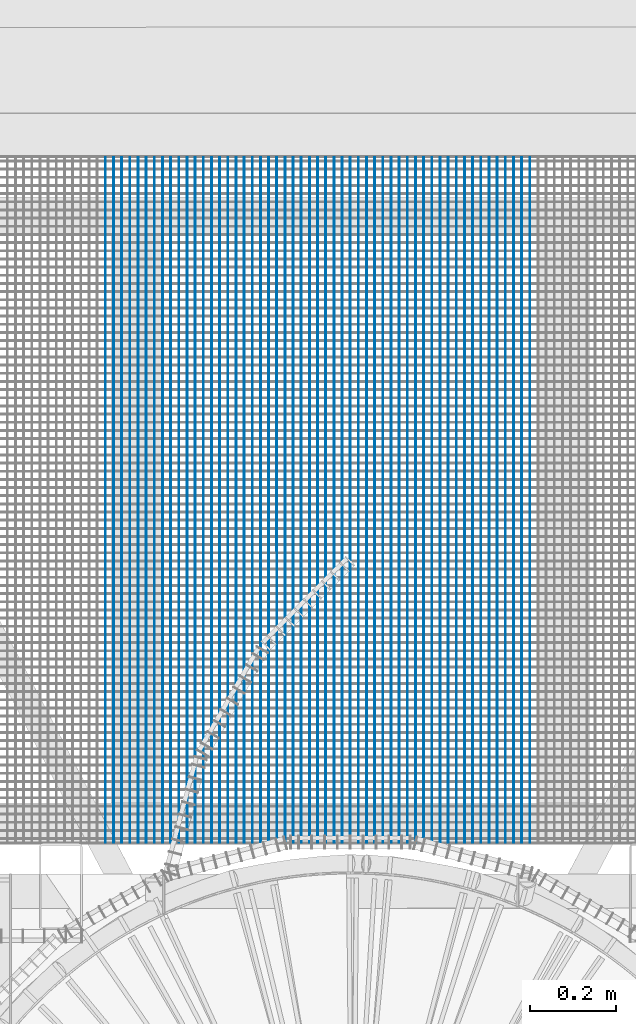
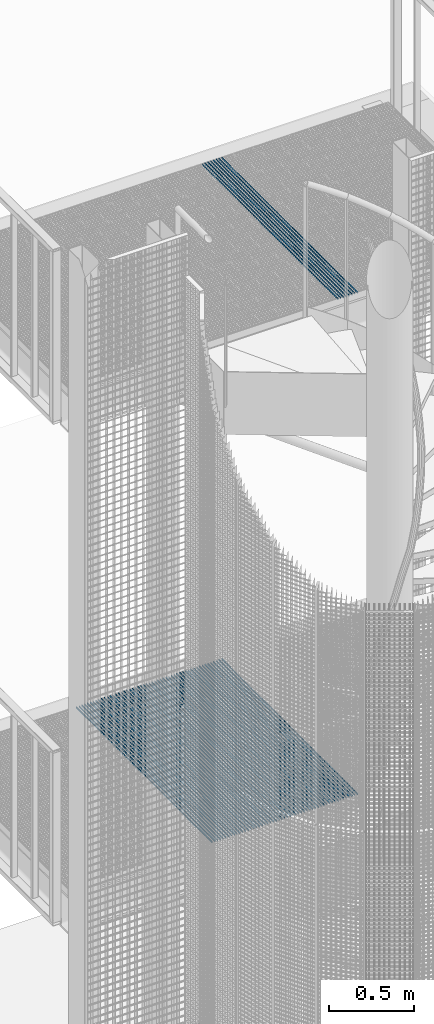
# One storey, part 82 of 1183: 61 beams, 2 elements without a shape of their own.
"""IFC2X3 building model written with IfcOpenShell, lengths in millimetres."""

from ifc_helpers import new_model, si_unit, frame, origin_with_axes, origin_2d_with_axis, place, context, subcontext, project, spatial, rectangle, extrude, material, type_object, element, aggregate, save


model = new_model("IFC2X3")

# Units and contexts
model_context = context("Model", 3, precision=1e-05, world=origin_with_axes())
body_context = subcontext(model_context, "Body", "Model", "MODEL_VIEW")
ifc_project = project(units=[si_unit("LENGTHUNIT", "METRE", prefix="MILLI"), si_unit("AREAUNIT", "SQUARE_METRE"), si_unit("VOLUMEUNIT", "CUBIC_METRE"), si_unit("MASSUNIT", "GRAM", prefix="KILO"), si_unit("TIMEUNIT", "SECOND"), si_unit("PLANEANGLEUNIT", "RADIAN"), si_unit("SOLIDANGLEUNIT", "STERADIAN"), si_unit("THERMODYNAMICTEMPERATUREUNIT", "DEGREE_CELSIUS"), si_unit("LUMINOUSINTENSITYUNIT", "LUMEN")], contexts=[model_context])

# Site, building, storey
site_placement = place(None, origin_with_axes())
site = spatial("IfcSite", under=ifc_project, at=site_placement, Name="Undefined", CompositionType="ELEMENT")
building_placement = place(site_placement, origin_with_axes())
building = spatial("IfcBuilding", under=site, at=building_placement, Name="Undefined", CompositionType="ELEMENT")
storey_placement = place(building_placement, origin_with_axes())
storey = spatial("IfcBuildingStorey", under=building, at=storey_placement, Name="Undefined", CompositionType="ELEMENT", Elevation=0.0)

# Assembly, beams
assembly_1_placement = place(storey_placement, origin_with_axes())
assembly_1 = element("IfcElementAssembly", 1, at=assembly_1_placement, inside=storey, Name="BORDURE", AssemblyPlace="NOTDEFINED", PredefinedType="NOTDEFINED")
ifc_material = material(Name="STEEL/S235JR")
beam_type = type_object("IfcBeamType", Name="PL2*10", PredefinedType="NOTDEFINED")
beam_1_placement = place(assembly_1_placement, frame((285.075424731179, 1102.00372179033, 17285.0), z_axis=(0.0, 0.0, 1.0), x_axis=(-4.50599999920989e-06, 0.999999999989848, 0.0)))
beam_1 = element("IfcBeam", 2, at=beam_1_placement, type_object=beam_type, material=ifc_material, Name="ENTRETOISE", context=body_context, shape_type="SweptSolid", body=[
    extrude(rectangle(XDim=2.0, YDim=10.0, at=origin_2d_with_axis()), frame((1596.0000000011, -1.35186458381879e-18, -7.27595761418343e-12), z_axis=(-1.0, 0.0, 0.0), x_axis=(0.0, -1.0, 0.0)), (0.0, 0.0, 1.0), 1596.0),
])
beam_2_placement = place(assembly_1_placement, frame((304.075424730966, 1102.00381530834, 17285.0), z_axis=(0.0, 0.0, 1.0), x_axis=(-4.50599999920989e-06, 0.999999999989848, 0.0)))
beam_2 = element("IfcBeam", 3, at=beam_2_placement, type_object=beam_type, material=ifc_material, Name="ENTRETOISE", context=body_context, shape_type="SweptSolid", body=[
    extrude(rectangle(XDim=2.0, YDim=10.0, at=origin_2d_with_axis()), frame((1596.0000000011, -1.35186458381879e-18, -7.27595761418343e-12), z_axis=(-1.0, 0.0, 0.0), x_axis=(0.0, -1.0, 0.0)), (0.0, 0.0, 1.0), 1596.0),
])
beam_3_placement = place(assembly_1_placement, frame((323.075424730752, 1102.00390882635, 17285.0), z_axis=(0.0, 0.0, 1.0), x_axis=(-4.50599999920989e-06, 0.999999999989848, 0.0)))
beam_3 = element("IfcBeam", 4, at=beam_3_placement, type_object=beam_type, material=ifc_material, Name="ENTRETOISE", context=body_context, shape_type="SweptSolid", body=[
    extrude(rectangle(XDim=2.0, YDim=10.0, at=origin_2d_with_axis()), frame((1596.0000000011, -1.35186458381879e-18, -7.27595761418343e-12), z_axis=(-1.0, 0.0, 0.0), x_axis=(0.0, -1.0, 0.0)), (0.0, 0.0, 1.0), 1596.0),
])
beam_4_placement = place(assembly_1_placement, frame((342.075424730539, 1102.00400234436, 17285.0), z_axis=(0.0, 0.0, 1.0), x_axis=(-4.50599999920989e-06, 0.999999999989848, 0.0)))
beam_4 = element("IfcBeam", 5, at=beam_4_placement, type_object=beam_type, material=ifc_material, Name="ENTRETOISE", context=body_context, shape_type="SweptSolid", body=[
    extrude(rectangle(XDim=2.0, YDim=10.0, at=origin_2d_with_axis()), frame((1596.0000000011, -1.35186458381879e-18, -7.27595761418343e-12), z_axis=(-1.0, 0.0, 0.0), x_axis=(0.0, -1.0, 0.0)), (0.0, 0.0, 1.0), 1596.0),
])
beam_5_placement = place(assembly_1_placement, frame((361.075424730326, 1102.00409586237, 17285.0), z_axis=(0.0, 0.0, 1.0), x_axis=(-4.50599999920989e-06, 0.999999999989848, 0.0)))
beam_5 = element("IfcBeam", 6, at=beam_5_placement, type_object=beam_type, material=ifc_material, Name="ENTRETOISE", context=body_context, shape_type="SweptSolid", body=[
    extrude(rectangle(XDim=2.0, YDim=10.0, at=origin_2d_with_axis()), frame((1596.0000000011, -1.35186458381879e-18, -7.27595761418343e-12), z_axis=(-1.0, 0.0, 0.0), x_axis=(0.0, -1.0, 0.0)), (0.0, 0.0, 1.0), 1596.0),
])
beam_6_placement = place(assembly_1_placement, frame((380.075424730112, 1102.00418938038, 17285.0), z_axis=(0.0, 0.0, 1.0), x_axis=(-4.50599999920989e-06, 0.999999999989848, 0.0)))
beam_6 = element("IfcBeam", 7, at=beam_6_placement, type_object=beam_type, material=ifc_material, Name="ENTRETOISE", context=body_context, shape_type="SweptSolid", body=[
    extrude(rectangle(XDim=2.0, YDim=10.0, at=origin_2d_with_axis()), frame((1596.0000000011, -1.35186458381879e-18, -7.27595761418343e-12), z_axis=(-1.0, 0.0, 0.0), x_axis=(0.0, -1.0, 0.0)), (0.0, 0.0, 1.0), 1596.0),
])
beam_7_placement = place(assembly_1_placement, frame((399.075424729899, 1102.00428289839, 17285.0), z_axis=(0.0, 0.0, 1.0), x_axis=(-4.50599999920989e-06, 0.999999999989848, 0.0)))
beam_7 = element("IfcBeam", 8, at=beam_7_placement, type_object=beam_type, material=ifc_material, Name="ENTRETOISE", context=body_context, shape_type="SweptSolid", body=[
    extrude(rectangle(XDim=2.0, YDim=10.0, at=origin_2d_with_axis()), frame((1596.0000000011, -1.35186458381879e-18, -7.27595761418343e-12), z_axis=(-1.0, 0.0, 0.0), x_axis=(0.0, -1.0, 0.0)), (0.0, 0.0, 1.0), 1596.0),
])
beam_8_placement = place(assembly_1_placement, frame((418.075424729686, 1102.0043764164, 17285.0), z_axis=(0.0, 0.0, 1.0), x_axis=(-4.50599999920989e-06, 0.999999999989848, 0.0)))
beam_8 = element("IfcBeam", 9, at=beam_8_placement, type_object=beam_type, material=ifc_material, Name="ENTRETOISE", context=body_context, shape_type="SweptSolid", body=[
    extrude(rectangle(XDim=2.0, YDim=10.0, at=origin_2d_with_axis()), frame((1596.0000000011, -1.35186458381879e-18, -7.27595761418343e-12), z_axis=(-1.0, 0.0, 0.0), x_axis=(0.0, -1.0, 0.0)), (0.0, 0.0, 1.0), 1596.0),
])
aggregate(assembly_1, [beam_1, beam_2, beam_3, beam_4, beam_5, beam_6, beam_7, beam_8])

assembly_2_placement = place(storey_placement, origin_with_axes())
assembly_2 = element("IfcElementAssembly", 10, at=assembly_2_placement, inside=storey, Name="BORDURE", AssemblyPlace="NOTDEFINED", PredefinedType="NOTDEFINED")
beam_9_placement = place(assembly_2_placement, frame((-569.924575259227, 1101.99951347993, 13685.0), z_axis=(0.0, 0.0, 1.0), x_axis=(-4.50599999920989e-06, 0.999999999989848, 0.0)))
beam_9 = element("IfcBeam", 11, at=beam_9_placement, type_object=beam_type, material=ifc_material, Name="ENTRETOISE", context=body_context, shape_type="SweptSolid", body=[
    extrude(rectangle(XDim=2.0, YDim=10.0, at=origin_2d_with_axis()), frame((1596.0000000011, -1.35186458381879e-18, -7.27595761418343e-12), z_axis=(-1.0, 0.0, 0.0), x_axis=(0.0, -1.0, 0.0)), (0.0, 0.0, 1.0), 1596.0),
])
beam_10_placement = place(assembly_2_placement, frame((-550.92457525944, 1101.99960699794, 13685.0), z_axis=(0.0, 0.0, 1.0), x_axis=(-4.50599999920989e-06, 0.999999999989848, 0.0)))
beam_10 = element("IfcBeam", 12, at=beam_10_placement, type_object=beam_type, material=ifc_material, Name="ENTRETOISE", context=body_context, shape_type="SweptSolid", body=[
    extrude(rectangle(XDim=2.0, YDim=10.0, at=origin_2d_with_axis()), frame((1596.0000000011, -1.35186458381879e-18, -7.27595761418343e-12), z_axis=(-1.0, 0.0, 0.0), x_axis=(0.0, -1.0, 0.0)), (0.0, 0.0, 1.0), 1596.0),
])
beam_11_placement = place(assembly_2_placement, frame((-531.924575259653, 1101.99970051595, 13685.0), z_axis=(0.0, 0.0, 1.0), x_axis=(-4.50599999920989e-06, 0.999999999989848, 0.0)))
beam_11 = element("IfcBeam", 13, at=beam_11_placement, type_object=beam_type, material=ifc_material, Name="ENTRETOISE", context=body_context, shape_type="SweptSolid", body=[
    extrude(rectangle(XDim=2.0, YDim=10.0, at=origin_2d_with_axis()), frame((1596.0000000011, -1.35186458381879e-18, -7.27595761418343e-12), z_axis=(-1.0, 0.0, 0.0), x_axis=(0.0, -1.0, 0.0)), (0.0, 0.0, 1.0), 1596.0),
])
beam_12_placement = place(assembly_2_placement, frame((-512.924575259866, 1101.99979403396, 13685.0), z_axis=(0.0, 0.0, 1.0), x_axis=(-4.50599999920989e-06, 0.999999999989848, 0.0)))
beam_12 = element("IfcBeam", 14, at=beam_12_placement, type_object=beam_type, material=ifc_material, Name="ENTRETOISE", context=body_context, shape_type="SweptSolid", body=[
    extrude(rectangle(XDim=2.0, YDim=10.0, at=origin_2d_with_axis()), frame((1596.0000000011, -1.35186458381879e-18, -7.27595761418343e-12), z_axis=(-1.0, 0.0, 0.0), x_axis=(0.0, -1.0, 0.0)), (0.0, 0.0, 1.0), 1596.0),
])
beam_13_placement = place(assembly_2_placement, frame((-493.924575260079, 1101.99988755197, 13685.0), z_axis=(0.0, 0.0, 1.0), x_axis=(-4.50599999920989e-06, 0.999999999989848, 0.0)))
beam_13 = element("IfcBeam", 15, at=beam_13_placement, type_object=beam_type, material=ifc_material, Name="ENTRETOISE", context=body_context, shape_type="SweptSolid", body=[
    extrude(rectangle(XDim=2.0, YDim=10.0, at=origin_2d_with_axis()), frame((1596.0000000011, -1.35186458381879e-18, -7.27595761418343e-12), z_axis=(-1.0, 0.0, 0.0), x_axis=(0.0, -1.0, 0.0)), (0.0, 0.0, 1.0), 1596.0),
])
beam_14_placement = place(assembly_2_placement, frame((-474.924575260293, 1101.99998106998, 13685.0), z_axis=(0.0, 0.0, 1.0), x_axis=(-4.50599999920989e-06, 0.999999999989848, 0.0)))
beam_14 = element("IfcBeam", 16, at=beam_14_placement, type_object=beam_type, material=ifc_material, Name="ENTRETOISE", context=body_context, shape_type="SweptSolid", body=[
    extrude(rectangle(XDim=2.0, YDim=10.0, at=origin_2d_with_axis()), frame((1596.0000000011, -1.35186458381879e-18, -7.27595761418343e-12), z_axis=(-1.0, 0.0, 0.0), x_axis=(0.0, -1.0, 0.0)), (0.0, 0.0, 1.0), 1596.0),
])
beam_15_placement = place(assembly_2_placement, frame((-455.924575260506, 1102.00007458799, 13685.0), z_axis=(0.0, 0.0, 1.0), x_axis=(-4.50599999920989e-06, 0.999999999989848, 0.0)))
beam_15 = element("IfcBeam", 17, at=beam_15_placement, type_object=beam_type, material=ifc_material, Name="ENTRETOISE", context=body_context, shape_type="SweptSolid", body=[
    extrude(rectangle(XDim=2.0, YDim=10.0, at=origin_2d_with_axis()), frame((1596.0000000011, -1.35186458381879e-18, -7.27595761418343e-12), z_axis=(-1.0, 0.0, 0.0), x_axis=(0.0, -1.0, 0.0)), (0.0, 0.0, 1.0), 1596.0),
])
beam_16_placement = place(assembly_2_placement, frame((-436.924575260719, 1102.00016810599, 13685.0), z_axis=(0.0, 0.0, 1.0), x_axis=(-4.50599999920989e-06, 0.999999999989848, 0.0)))
beam_16 = element("IfcBeam", 18, at=beam_16_placement, type_object=beam_type, material=ifc_material, Name="ENTRETOISE", context=body_context, shape_type="SweptSolid", body=[
    extrude(rectangle(XDim=2.0, YDim=10.0, at=origin_2d_with_axis()), frame((1596.0000000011, -1.35186458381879e-18, -7.27595761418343e-12), z_axis=(-1.0, 0.0, 0.0), x_axis=(0.0, -1.0, 0.0)), (0.0, 0.0, 1.0), 1596.0),
])
beam_17_placement = place(assembly_2_placement, frame((-417.924575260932, 1102.000261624, 13685.0), z_axis=(0.0, 0.0, 1.0), x_axis=(-4.50599999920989e-06, 0.999999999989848, 0.0)))
beam_17 = element("IfcBeam", 19, at=beam_17_placement, type_object=beam_type, material=ifc_material, Name="ENTRETOISE", context=body_context, shape_type="SweptSolid", body=[
    extrude(rectangle(XDim=2.0, YDim=10.0, at=origin_2d_with_axis()), frame((1596.0000000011, -1.35186458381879e-18, -7.27595761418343e-12), z_axis=(-1.0, 0.0, 0.0), x_axis=(0.0, -1.0, 0.0)), (0.0, 0.0, 1.0), 1596.0),
])
beam_18_placement = place(assembly_2_placement, frame((-398.924575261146, 1102.00035514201, 13685.0), z_axis=(0.0, 0.0, 1.0), x_axis=(-4.50599999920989e-06, 0.999999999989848, 0.0)))
beam_18 = element("IfcBeam", 20, at=beam_18_placement, type_object=beam_type, material=ifc_material, Name="ENTRETOISE", context=body_context, shape_type="SweptSolid", body=[
    extrude(rectangle(XDim=2.0, YDim=10.0, at=origin_2d_with_axis()), frame((1596.0000000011, -1.35186458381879e-18, -7.27595761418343e-12), z_axis=(-1.0, 0.0, 0.0), x_axis=(0.0, -1.0, 0.0)), (0.0, 0.0, 1.0), 1596.0),
])
beam_19_placement = place(assembly_2_placement, frame((-379.92457526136, 1102.00044866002, 13685.0), z_axis=(0.0, 0.0, 1.0), x_axis=(-4.50599999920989e-06, 0.999999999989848, 0.0)))
beam_19 = element("IfcBeam", 21, at=beam_19_placement, type_object=beam_type, material=ifc_material, Name="ENTRETOISE", context=body_context, shape_type="SweptSolid", body=[
    extrude(rectangle(XDim=2.0, YDim=10.0, at=origin_2d_with_axis()), frame((1596.0000000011, -1.35186458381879e-18, -7.27595761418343e-12), z_axis=(-1.0, 0.0, 0.0), x_axis=(0.0, -1.0, 0.0)), (0.0, 0.0, 1.0), 1596.0),
])
beam_20_placement = place(assembly_2_placement, frame((-360.924575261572, 1102.00054217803, 13685.0), z_axis=(0.0, 0.0, 1.0), x_axis=(-4.50599999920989e-06, 0.999999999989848, 0.0)))
beam_20 = element("IfcBeam", 22, at=beam_20_placement, type_object=beam_type, material=ifc_material, Name="ENTRETOISE", context=body_context, shape_type="SweptSolid", body=[
    extrude(rectangle(XDim=2.0, YDim=10.0, at=origin_2d_with_axis()), frame((1596.0000000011, -1.35186458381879e-18, -7.27595761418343e-12), z_axis=(-1.0, 0.0, 0.0), x_axis=(0.0, -1.0, 0.0)), (0.0, 0.0, 1.0), 1596.0),
])
beam_21_placement = place(assembly_2_placement, frame((-341.924575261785, 1102.00063569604, 13685.0), z_axis=(0.0, 0.0, 1.0), x_axis=(-4.50599999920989e-06, 0.999999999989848, 0.0)))
beam_21 = element("IfcBeam", 23, at=beam_21_placement, type_object=beam_type, material=ifc_material, Name="ENTRETOISE", context=body_context, shape_type="SweptSolid", body=[
    extrude(rectangle(XDim=2.0, YDim=10.0, at=origin_2d_with_axis()), frame((1596.0000000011, -1.35186458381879e-18, -7.27595761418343e-12), z_axis=(-1.0, 0.0, 0.0), x_axis=(0.0, -1.0, 0.0)), (0.0, 0.0, 1.0), 1596.0),
])
beam_22_placement = place(assembly_2_placement, frame((-322.924575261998, 1102.00072921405, 13685.0), z_axis=(0.0, 0.0, 1.0), x_axis=(-4.50599999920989e-06, 0.999999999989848, 0.0)))
beam_22 = element("IfcBeam", 24, at=beam_22_placement, type_object=beam_type, material=ifc_material, Name="ENTRETOISE", context=body_context, shape_type="SweptSolid", body=[
    extrude(rectangle(XDim=2.0, YDim=10.0, at=origin_2d_with_axis()), frame((1596.0000000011, -1.35186458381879e-18, -7.27595761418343e-12), z_axis=(-1.0, 0.0, 0.0), x_axis=(0.0, -1.0, 0.0)), (0.0, 0.0, 1.0), 1596.0),
])
beam_23_placement = place(assembly_2_placement, frame((-303.924575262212, 1102.00082273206, 13685.0), z_axis=(0.0, 0.0, 1.0), x_axis=(-4.50599999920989e-06, 0.999999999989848, 0.0)))
beam_23 = element("IfcBeam", 25, at=beam_23_placement, type_object=beam_type, material=ifc_material, Name="ENTRETOISE", context=body_context, shape_type="SweptSolid", body=[
    extrude(rectangle(XDim=2.0, YDim=10.0, at=origin_2d_with_axis()), frame((1596.0000000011, -1.35186458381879e-18, -7.27595761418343e-12), z_axis=(-1.0, 0.0, 0.0), x_axis=(0.0, -1.0, 0.0)), (0.0, 0.0, 1.0), 1596.0),
])
beam_24_placement = place(assembly_2_placement, frame((-284.924575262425, 1102.00091625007, 13685.0), z_axis=(0.0, 0.0, 1.0), x_axis=(-4.50599999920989e-06, 0.999999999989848, 0.0)))
beam_24 = element("IfcBeam", 26, at=beam_24_placement, type_object=beam_type, material=ifc_material, Name="ENTRETOISE", context=body_context, shape_type="SweptSolid", body=[
    extrude(rectangle(XDim=2.0, YDim=10.0, at=origin_2d_with_axis()), frame((1596.0000000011, -1.35186458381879e-18, -7.27595761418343e-12), z_axis=(-1.0, 0.0, 0.0), x_axis=(0.0, -1.0, 0.0)), (0.0, 0.0, 1.0), 1596.0),
])
beam_25_placement = place(assembly_2_placement, frame((-265.924575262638, 1102.00100976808, 13685.0), z_axis=(0.0, 0.0, 1.0), x_axis=(-4.50599999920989e-06, 0.999999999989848, 0.0)))
beam_25 = element("IfcBeam", 27, at=beam_25_placement, type_object=beam_type, material=ifc_material, Name="ENTRETOISE", context=body_context, shape_type="SweptSolid", body=[
    extrude(rectangle(XDim=2.0, YDim=10.0, at=origin_2d_with_axis()), frame((1596.0000000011, -1.35186458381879e-18, -7.27595761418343e-12), z_axis=(-1.0, 0.0, 0.0), x_axis=(0.0, -1.0, 0.0)), (0.0, 0.0, 1.0), 1596.0),
])
beam_26_placement = place(assembly_2_placement, frame((-246.924575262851, 1102.00110328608, 13685.0), z_axis=(0.0, 0.0, 1.0), x_axis=(-4.50599999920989e-06, 0.999999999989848, 0.0)))
beam_26 = element("IfcBeam", 28, at=beam_26_placement, type_object=beam_type, material=ifc_material, Name="ENTRETOISE", context=body_context, shape_type="SweptSolid", body=[
    extrude(rectangle(XDim=2.0, YDim=10.0, at=origin_2d_with_axis()), frame((1596.0000000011, -1.35186458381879e-18, -7.27595761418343e-12), z_axis=(-1.0, 0.0, 0.0), x_axis=(0.0, -1.0, 0.0)), (0.0, 0.0, 1.0), 1596.0),
])
beam_27_placement = place(assembly_2_placement, frame((-227.924575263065, 1102.00119680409, 13685.0), z_axis=(0.0, 0.0, 1.0), x_axis=(-4.50599999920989e-06, 0.999999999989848, 0.0)))
beam_27 = element("IfcBeam", 29, at=beam_27_placement, type_object=beam_type, material=ifc_material, Name="ENTRETOISE", context=body_context, shape_type="SweptSolid", body=[
    extrude(rectangle(XDim=2.0, YDim=10.0, at=origin_2d_with_axis()), frame((1596.0000000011, -1.35186458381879e-18, -7.27595761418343e-12), z_axis=(-1.0, 0.0, 0.0), x_axis=(0.0, -1.0, 0.0)), (0.0, 0.0, 1.0), 1596.0),
])
beam_28_placement = place(assembly_2_placement, frame((-208.924575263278, 1102.0012903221, 13685.0), z_axis=(0.0, 0.0, 1.0), x_axis=(-4.50599999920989e-06, 0.999999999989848, 0.0)))
beam_28 = element("IfcBeam", 30, at=beam_28_placement, type_object=beam_type, material=ifc_material, Name="ENTRETOISE", context=body_context, shape_type="SweptSolid", body=[
    extrude(rectangle(XDim=2.0, YDim=10.0, at=origin_2d_with_axis()), frame((1596.0000000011, -1.35186458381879e-18, -7.27595761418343e-12), z_axis=(-1.0, 0.0, 0.0), x_axis=(0.0, -1.0, 0.0)), (0.0, 0.0, 1.0), 1596.0),
])
beam_29_placement = place(assembly_2_placement, frame((-189.924575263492, 1102.00138384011, 13685.0), z_axis=(0.0, 0.0, 1.0), x_axis=(-4.50599999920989e-06, 0.999999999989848, 0.0)))
beam_29 = element("IfcBeam", 31, at=beam_29_placement, type_object=beam_type, material=ifc_material, Name="ENTRETOISE", context=body_context, shape_type="SweptSolid", body=[
    extrude(rectangle(XDim=2.0, YDim=10.0, at=origin_2d_with_axis()), frame((1596.0000000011, -1.35186458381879e-18, -7.27595761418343e-12), z_axis=(-1.0, 0.0, 0.0), x_axis=(0.0, -1.0, 0.0)), (0.0, 0.0, 1.0), 1596.0),
])
beam_30_placement = place(assembly_2_placement, frame((-170.924575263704, 1102.00147735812, 13685.0), z_axis=(0.0, 0.0, 1.0), x_axis=(-4.50599999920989e-06, 0.999999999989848, 0.0)))
beam_30 = element("IfcBeam", 32, at=beam_30_placement, type_object=beam_type, material=ifc_material, Name="ENTRETOISE", context=body_context, shape_type="SweptSolid", body=[
    extrude(rectangle(XDim=2.0, YDim=10.0, at=origin_2d_with_axis()), frame((1596.0000000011, -1.35186458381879e-18, -7.27595761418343e-12), z_axis=(-1.0, 0.0, 0.0), x_axis=(0.0, -1.0, 0.0)), (0.0, 0.0, 1.0), 1596.0),
])
beam_31_placement = place(assembly_2_placement, frame((-151.924575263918, 1102.00157087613, 13685.0), z_axis=(0.0, 0.0, 1.0), x_axis=(-4.50599999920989e-06, 0.999999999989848, 0.0)))
beam_31 = element("IfcBeam", 33, at=beam_31_placement, type_object=beam_type, material=ifc_material, Name="ENTRETOISE", context=body_context, shape_type="SweptSolid", body=[
    extrude(rectangle(XDim=2.0, YDim=10.0, at=origin_2d_with_axis()), frame((1596.0000000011, -1.35186458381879e-18, -7.27595761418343e-12), z_axis=(-1.0, 0.0, 0.0), x_axis=(0.0, -1.0, 0.0)), (0.0, 0.0, 1.0), 1596.0),
])
beam_32_placement = place(assembly_2_placement, frame((-132.92457526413, 1102.00166439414, 13685.0), z_axis=(0.0, 0.0, 1.0), x_axis=(-4.50599999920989e-06, 0.999999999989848, 0.0)))
beam_32 = element("IfcBeam", 34, at=beam_32_placement, type_object=beam_type, material=ifc_material, Name="ENTRETOISE", context=body_context, shape_type="SweptSolid", body=[
    extrude(rectangle(XDim=2.0, YDim=10.0, at=origin_2d_with_axis()), frame((1596.0000000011, -1.35186458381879e-18, -7.27595761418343e-12), z_axis=(-1.0, 0.0, 0.0), x_axis=(0.0, -1.0, 0.0)), (0.0, 0.0, 1.0), 1596.0),
])
beam_33_placement = place(assembly_2_placement, frame((-113.924575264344, 1102.00175791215, 13685.0), z_axis=(0.0, 0.0, 1.0), x_axis=(-4.50599999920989e-06, 0.999999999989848, 0.0)))
beam_33 = element("IfcBeam", 35, at=beam_33_placement, type_object=beam_type, material=ifc_material, Name="ENTRETOISE", context=body_context, shape_type="SweptSolid", body=[
    extrude(rectangle(XDim=2.0, YDim=10.0, at=origin_2d_with_axis()), frame((1596.0000000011, -1.35186458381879e-18, -7.27595761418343e-12), z_axis=(-1.0, 0.0, 0.0), x_axis=(0.0, -1.0, 0.0)), (0.0, 0.0, 1.0), 1596.0),
])
beam_34_placement = place(assembly_2_placement, frame((-94.9245752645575, 1102.00185143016, 13685.0), z_axis=(0.0, 0.0, 1.0), x_axis=(-4.50599999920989e-06, 0.999999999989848, 0.0)))
beam_34 = element("IfcBeam", 36, at=beam_34_placement, type_object=beam_type, material=ifc_material, Name="ENTRETOISE", context=body_context, shape_type="SweptSolid", body=[
    extrude(rectangle(XDim=2.0, YDim=10.0, at=origin_2d_with_axis()), frame((1596.0000000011, -1.35186458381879e-18, -7.27595761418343e-12), z_axis=(-1.0, 0.0, 0.0), x_axis=(0.0, -1.0, 0.0)), (0.0, 0.0, 1.0), 1596.0),
])
beam_35_placement = place(assembly_2_placement, frame((-75.9245752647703, 1102.00194494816, 13685.0), z_axis=(0.0, 0.0, 1.0), x_axis=(-4.50599999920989e-06, 0.999999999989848, 0.0)))
beam_35 = element("IfcBeam", 37, at=beam_35_placement, type_object=beam_type, material=ifc_material, Name="ENTRETOISE", context=body_context, shape_type="SweptSolid", body=[
    extrude(rectangle(XDim=2.0, YDim=10.0, at=origin_2d_with_axis()), frame((1596.0000000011, -1.35186458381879e-18, -7.27595761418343e-12), z_axis=(-1.0, 0.0, 0.0), x_axis=(0.0, -1.0, 0.0)), (0.0, 0.0, 1.0), 1596.0),
])
beam_36_placement = place(assembly_2_placement, frame((-56.924575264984, 1102.00203846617, 13685.0), z_axis=(0.0, 0.0, 1.0), x_axis=(-4.50599999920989e-06, 0.999999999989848, 0.0)))
beam_36 = element("IfcBeam", 38, at=beam_36_placement, type_object=beam_type, material=ifc_material, Name="ENTRETOISE", context=body_context, shape_type="SweptSolid", body=[
    extrude(rectangle(XDim=2.0, YDim=10.0, at=origin_2d_with_axis()), frame((1596.0000000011, -1.35186458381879e-18, -7.27595761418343e-12), z_axis=(-1.0, 0.0, 0.0), x_axis=(0.0, -1.0, 0.0)), (0.0, 0.0, 1.0), 1596.0),
])
beam_37_placement = place(assembly_2_placement, frame((-37.9245752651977, 1102.00213198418, 13685.0), z_axis=(0.0, 0.0, 1.0), x_axis=(-4.50599999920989e-06, 0.999999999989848, 0.0)))
beam_37 = element("IfcBeam", 39, at=beam_37_placement, type_object=beam_type, material=ifc_material, Name="ENTRETOISE", context=body_context, shape_type="SweptSolid", body=[
    extrude(rectangle(XDim=2.0, YDim=10.0, at=origin_2d_with_axis()), frame((1596.0000000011, -1.35186458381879e-18, -7.27595761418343e-12), z_axis=(-1.0, 0.0, 0.0), x_axis=(0.0, -1.0, 0.0)), (0.0, 0.0, 1.0), 1596.0),
])
beam_38_placement = place(assembly_2_placement, frame((-18.9245752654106, 1102.00222550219, 13685.0), z_axis=(0.0, 0.0, 1.0), x_axis=(-4.50599999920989e-06, 0.999999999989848, 0.0)))
beam_38 = element("IfcBeam", 40, at=beam_38_placement, type_object=beam_type, material=ifc_material, Name="ENTRETOISE", context=body_context, shape_type="SweptSolid", body=[
    extrude(rectangle(XDim=2.0, YDim=10.0, at=origin_2d_with_axis()), frame((1596.0000000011, -1.35186458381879e-18, -7.27595761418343e-12), z_axis=(-1.0, 0.0, 0.0), x_axis=(0.0, -1.0, 0.0)), (0.0, 0.0, 1.0), 1596.0),
])
beam_39_placement = place(assembly_2_placement, frame((0.075424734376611, 1102.0023190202, 13685.0), z_axis=(0.0, 0.0, 1.0), x_axis=(-4.50599999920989e-06, 0.999999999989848, 0.0)))
beam_39 = element("IfcBeam", 41, at=beam_39_placement, type_object=beam_type, material=ifc_material, Name="ENTRETOISE", context=body_context, shape_type="SweptSolid", body=[
    extrude(rectangle(XDim=2.0, YDim=10.0, at=origin_2d_with_axis()), frame((1596.0000000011, -1.35186458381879e-18, -7.27595761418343e-12), z_axis=(-1.0, 0.0, 0.0), x_axis=(0.0, -1.0, 0.0)), (0.0, 0.0, 1.0), 1596.0),
])
beam_40_placement = place(assembly_2_placement, frame((19.0754247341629, 1102.00241253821, 13685.0), z_axis=(0.0, 0.0, 1.0), x_axis=(-4.50599999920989e-06, 0.999999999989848, 0.0)))
beam_40 = element("IfcBeam", 42, at=beam_40_placement, type_object=beam_type, material=ifc_material, Name="ENTRETOISE", context=body_context, shape_type="SweptSolid", body=[
    extrude(rectangle(XDim=2.0, YDim=10.0, at=origin_2d_with_axis()), frame((1596.0000000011, -1.35186458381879e-18, -7.27595761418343e-12), z_axis=(-1.0, 0.0, 0.0), x_axis=(0.0, -1.0, 0.0)), (0.0, 0.0, 1.0), 1596.0),
])
beam_41_placement = place(assembly_2_placement, frame((38.0754247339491, 1102.00250605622, 13685.0), z_axis=(0.0, 0.0, 1.0), x_axis=(-4.50599999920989e-06, 0.999999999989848, 0.0)))
beam_41 = element("IfcBeam", 43, at=beam_41_placement, type_object=beam_type, material=ifc_material, Name="ENTRETOISE", context=body_context, shape_type="SweptSolid", body=[
    extrude(rectangle(XDim=2.0, YDim=10.0, at=origin_2d_with_axis()), frame((1596.0000000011, -1.35186458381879e-18, -7.27595761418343e-12), z_axis=(-1.0, 0.0, 0.0), x_axis=(0.0, -1.0, 0.0)), (0.0, 0.0, 1.0), 1596.0),
])
beam_42_placement = place(assembly_2_placement, frame((57.0754247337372, 1102.00259957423, 13685.0), z_axis=(0.0, 0.0, 1.0), x_axis=(-4.50599999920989e-06, 0.999999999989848, 0.0)))
beam_42 = element("IfcBeam", 44, at=beam_42_placement, type_object=beam_type, material=ifc_material, Name="ENTRETOISE", context=body_context, shape_type="SweptSolid", body=[
    extrude(rectangle(XDim=2.0, YDim=10.0, at=origin_2d_with_axis()), frame((1596.0000000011, -1.35186458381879e-18, -7.27595761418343e-12), z_axis=(-1.0, 0.0, 0.0), x_axis=(0.0, -1.0, 0.0)), (0.0, 0.0, 1.0), 1596.0),
])
beam_43_placement = place(assembly_2_placement, frame((76.0754247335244, 1102.00269309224, 13685.0), z_axis=(0.0, 0.0, 1.0), x_axis=(-4.50599999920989e-06, 0.999999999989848, 0.0)))
beam_43 = element("IfcBeam", 45, at=beam_43_placement, type_object=beam_type, material=ifc_material, Name="ENTRETOISE", context=body_context, shape_type="SweptSolid", body=[
    extrude(rectangle(XDim=2.0, YDim=10.0, at=origin_2d_with_axis()), frame((1596.0000000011, -1.35186458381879e-18, -7.27595761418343e-12), z_axis=(-1.0, 0.0, 0.0), x_axis=(0.0, -1.0, 0.0)), (0.0, 0.0, 1.0), 1596.0),
])
beam_44_placement = place(assembly_2_placement, frame((95.0754247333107, 1102.00278661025, 13685.0), z_axis=(0.0, 0.0, 1.0), x_axis=(-4.50599999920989e-06, 0.999999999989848, 0.0)))
beam_44 = element("IfcBeam", 46, at=beam_44_placement, type_object=beam_type, material=ifc_material, Name="ENTRETOISE", context=body_context, shape_type="SweptSolid", body=[
    extrude(rectangle(XDim=2.0, YDim=10.0, at=origin_2d_with_axis()), frame((1596.0000000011, -1.35186458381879e-18, -7.27595761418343e-12), z_axis=(-1.0, 0.0, 0.0), x_axis=(0.0, -1.0, 0.0)), (0.0, 0.0, 1.0), 1596.0),
])
beam_45_placement = place(assembly_2_placement, frame((114.075424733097, 1102.00288012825, 13685.0), z_axis=(0.0, 0.0, 1.0), x_axis=(-4.50599999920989e-06, 0.999999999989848, 0.0)))
beam_45 = element("IfcBeam", 47, at=beam_45_placement, type_object=beam_type, material=ifc_material, Name="ENTRETOISE", context=body_context, shape_type="SweptSolid", body=[
    extrude(rectangle(XDim=2.0, YDim=10.0, at=origin_2d_with_axis()), frame((1596.0000000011, -1.35186458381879e-18, -7.27595761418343e-12), z_axis=(-1.0, 0.0, 0.0), x_axis=(0.0, -1.0, 0.0)), (0.0, 0.0, 1.0), 1596.0),
])
beam_46_placement = place(assembly_2_placement, frame((133.075424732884, 1102.00297364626, 13685.0), z_axis=(0.0, 0.0, 1.0), x_axis=(-4.50599999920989e-06, 0.999999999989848, 0.0)))
beam_46 = element("IfcBeam", 48, at=beam_46_placement, type_object=beam_type, material=ifc_material, Name="ENTRETOISE", context=body_context, shape_type="SweptSolid", body=[
    extrude(rectangle(XDim=2.0, YDim=10.0, at=origin_2d_with_axis()), frame((1596.0000000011, -1.35186458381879e-18, -7.27595761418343e-12), z_axis=(-1.0, 0.0, 0.0), x_axis=(0.0, -1.0, 0.0)), (0.0, 0.0, 1.0), 1596.0),
])
beam_47_placement = place(assembly_2_placement, frame((152.07542473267, 1102.00306716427, 13685.0), z_axis=(0.0, 0.0, 1.0), x_axis=(-4.50599999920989e-06, 0.999999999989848, 0.0)))
beam_47 = element("IfcBeam", 49, at=beam_47_placement, type_object=beam_type, material=ifc_material, Name="ENTRETOISE", context=body_context, shape_type="SweptSolid", body=[
    extrude(rectangle(XDim=2.0, YDim=10.0, at=origin_2d_with_axis()), frame((1596.0000000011, -1.35186458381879e-18, -7.27595761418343e-12), z_axis=(-1.0, 0.0, 0.0), x_axis=(0.0, -1.0, 0.0)), (0.0, 0.0, 1.0), 1596.0),
])
beam_48_placement = place(assembly_2_placement, frame((171.075424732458, 1102.00316068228, 13685.0), z_axis=(0.0, 0.0, 1.0), x_axis=(-4.50599999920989e-06, 0.999999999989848, 0.0)))
beam_48 = element("IfcBeam", 50, at=beam_48_placement, type_object=beam_type, material=ifc_material, Name="ENTRETOISE", context=body_context, shape_type="SweptSolid", body=[
    extrude(rectangle(XDim=2.0, YDim=10.0, at=origin_2d_with_axis()), frame((1596.0000000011, -1.35186458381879e-18, -7.27595761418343e-12), z_axis=(-1.0, 0.0, 0.0), x_axis=(0.0, -1.0, 0.0)), (0.0, 0.0, 1.0), 1596.0),
])
beam_49_placement = place(assembly_2_placement, frame((190.075424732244, 1102.00325420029, 13685.0), z_axis=(0.0, 0.0, 1.0), x_axis=(-4.50599999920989e-06, 0.999999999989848, 0.0)))
beam_49 = element("IfcBeam", 51, at=beam_49_placement, type_object=beam_type, material=ifc_material, Name="ENTRETOISE", context=body_context, shape_type="SweptSolid", body=[
    extrude(rectangle(XDim=2.0, YDim=10.0, at=origin_2d_with_axis()), frame((1596.0000000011, -1.35186458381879e-18, -7.27595761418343e-12), z_axis=(-1.0, 0.0, 0.0), x_axis=(0.0, -1.0, 0.0)), (0.0, 0.0, 1.0), 1596.0),
])
beam_50_placement = place(assembly_2_placement, frame((209.075424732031, 1102.0033477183, 13685.0), z_axis=(0.0, 0.0, 1.0), x_axis=(-4.50599999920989e-06, 0.999999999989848, 0.0)))
beam_50 = element("IfcBeam", 52, at=beam_50_placement, type_object=beam_type, material=ifc_material, Name="ENTRETOISE", context=body_context, shape_type="SweptSolid", body=[
    extrude(rectangle(XDim=2.0, YDim=10.0, at=origin_2d_with_axis()), frame((1596.0000000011, -1.35186458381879e-18, -7.27595761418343e-12), z_axis=(-1.0, 0.0, 0.0), x_axis=(0.0, -1.0, 0.0)), (0.0, 0.0, 1.0), 1596.0),
])
beam_51_placement = place(assembly_2_placement, frame((228.075424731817, 1102.00344123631, 13685.0), z_axis=(0.0, 0.0, 1.0), x_axis=(-4.50599999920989e-06, 0.999999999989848, 0.0)))
beam_51 = element("IfcBeam", 53, at=beam_51_placement, type_object=beam_type, material=ifc_material, Name="ENTRETOISE", context=body_context, shape_type="SweptSolid", body=[
    extrude(rectangle(XDim=2.0, YDim=10.0, at=origin_2d_with_axis()), frame((1596.0000000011, -1.35186458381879e-18, -7.27595761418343e-12), z_axis=(-1.0, 0.0, 0.0), x_axis=(0.0, -1.0, 0.0)), (0.0, 0.0, 1.0), 1596.0),
])
beam_52_placement = place(assembly_2_placement, frame((247.075424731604, 1102.00353475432, 13685.0), z_axis=(0.0, 0.0, 1.0), x_axis=(-4.50599999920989e-06, 0.999999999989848, 0.0)))
beam_52 = element("IfcBeam", 54, at=beam_52_placement, type_object=beam_type, material=ifc_material, Name="ENTRETOISE", context=body_context, shape_type="SweptSolid", body=[
    extrude(rectangle(XDim=2.0, YDim=10.0, at=origin_2d_with_axis()), frame((1596.0000000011, -1.35186458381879e-18, -7.27595761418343e-12), z_axis=(-1.0, 0.0, 0.0), x_axis=(0.0, -1.0, 0.0)), (0.0, 0.0, 1.0), 1596.0),
])
beam_53_placement = place(assembly_2_placement, frame((266.075424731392, 1102.00362827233, 13685.0), z_axis=(0.0, 0.0, 1.0), x_axis=(-4.50599999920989e-06, 0.999999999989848, 0.0)))
beam_53 = element("IfcBeam", 55, at=beam_53_placement, type_object=beam_type, material=ifc_material, Name="ENTRETOISE", context=body_context, shape_type="SweptSolid", body=[
    extrude(rectangle(XDim=2.0, YDim=10.0, at=origin_2d_with_axis()), frame((1596.0000000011, -1.35186458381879e-18, -7.27595761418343e-12), z_axis=(-1.0, 0.0, 0.0), x_axis=(0.0, -1.0, 0.0)), (0.0, 0.0, 1.0), 1596.0),
])
beam_54_placement = place(assembly_2_placement, frame((285.075424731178, 1102.00372179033, 13685.0), z_axis=(0.0, 0.0, 1.0), x_axis=(-4.50599999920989e-06, 0.999999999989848, 0.0)))
beam_54 = element("IfcBeam", 56, at=beam_54_placement, type_object=beam_type, material=ifc_material, Name="ENTRETOISE", context=body_context, shape_type="SweptSolid", body=[
    extrude(rectangle(XDim=2.0, YDim=10.0, at=origin_2d_with_axis()), frame((1596.0000000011, -1.35186458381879e-18, -7.27595761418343e-12), z_axis=(-1.0, 0.0, 0.0), x_axis=(0.0, -1.0, 0.0)), (0.0, 0.0, 1.0), 1596.0),
])
beam_55_placement = place(assembly_2_placement, frame((304.075424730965, 1102.00381530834, 13685.0), z_axis=(0.0, 0.0, 1.0), x_axis=(-4.50599999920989e-06, 0.999999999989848, 0.0)))
beam_55 = element("IfcBeam", 57, at=beam_55_placement, type_object=beam_type, material=ifc_material, Name="ENTRETOISE", context=body_context, shape_type="SweptSolid", body=[
    extrude(rectangle(XDim=2.0, YDim=10.0, at=origin_2d_with_axis()), frame((1596.0000000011, -1.35186458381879e-18, -7.27595761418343e-12), z_axis=(-1.0, 0.0, 0.0), x_axis=(0.0, -1.0, 0.0)), (0.0, 0.0, 1.0), 1596.0),
])
beam_56_placement = place(assembly_2_placement, frame((323.075424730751, 1102.00390882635, 13685.0), z_axis=(0.0, 0.0, 1.0), x_axis=(-4.50599999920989e-06, 0.999999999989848, 0.0)))
beam_56 = element("IfcBeam", 58, at=beam_56_placement, type_object=beam_type, material=ifc_material, Name="ENTRETOISE", context=body_context, shape_type="SweptSolid", body=[
    extrude(rectangle(XDim=2.0, YDim=10.0, at=origin_2d_with_axis()), frame((1596.0000000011, -1.35186458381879e-18, -7.27595761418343e-12), z_axis=(-1.0, 0.0, 0.0), x_axis=(0.0, -1.0, 0.0)), (0.0, 0.0, 1.0), 1596.0),
])
beam_57_placement = place(assembly_2_placement, frame((342.075424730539, 1102.00400234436, 13685.0), z_axis=(0.0, 0.0, 1.0), x_axis=(-4.50599999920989e-06, 0.999999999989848, 0.0)))
beam_57 = element("IfcBeam", 59, at=beam_57_placement, type_object=beam_type, material=ifc_material, Name="ENTRETOISE", context=body_context, shape_type="SweptSolid", body=[
    extrude(rectangle(XDim=2.0, YDim=10.0, at=origin_2d_with_axis()), frame((1596.0000000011, -1.35186458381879e-18, -7.27595761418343e-12), z_axis=(-1.0, 0.0, 0.0), x_axis=(0.0, -1.0, 0.0)), (0.0, 0.0, 1.0), 1596.0),
])
beam_58_placement = place(assembly_2_placement, frame((361.075424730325, 1102.00409586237, 13685.0), z_axis=(0.0, 0.0, 1.0), x_axis=(-4.50599999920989e-06, 0.999999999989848, 0.0)))
beam_58 = element("IfcBeam", 60, at=beam_58_placement, type_object=beam_type, material=ifc_material, Name="ENTRETOISE", context=body_context, shape_type="SweptSolid", body=[
    extrude(rectangle(XDim=2.0, YDim=10.0, at=origin_2d_with_axis()), frame((1596.0000000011, -1.35186458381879e-18, -7.27595761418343e-12), z_axis=(-1.0, 0.0, 0.0), x_axis=(0.0, -1.0, 0.0)), (0.0, 0.0, 1.0), 1596.0),
])
beam_59_placement = place(assembly_2_placement, frame((380.075424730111, 1102.00418938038, 13685.0), z_axis=(0.0, 0.0, 1.0), x_axis=(-4.50599999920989e-06, 0.999999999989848, 0.0)))
beam_59 = element("IfcBeam", 61, at=beam_59_placement, type_object=beam_type, material=ifc_material, Name="ENTRETOISE", context=body_context, shape_type="SweptSolid", body=[
    extrude(rectangle(XDim=2.0, YDim=10.0, at=origin_2d_with_axis()), frame((1596.0000000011, -1.35186458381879e-18, -7.27595761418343e-12), z_axis=(-1.0, 0.0, 0.0), x_axis=(0.0, -1.0, 0.0)), (0.0, 0.0, 1.0), 1596.0),
])
beam_60_placement = place(assembly_2_placement, frame((399.075424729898, 1102.00428289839, 13685.0), z_axis=(0.0, 0.0, 1.0), x_axis=(-4.50599999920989e-06, 0.999999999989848, 0.0)))
beam_60 = element("IfcBeam", 62, at=beam_60_placement, type_object=beam_type, material=ifc_material, Name="ENTRETOISE", context=body_context, shape_type="SweptSolid", body=[
    extrude(rectangle(XDim=2.0, YDim=10.0, at=origin_2d_with_axis()), frame((1596.0000000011, -1.35186458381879e-18, -7.27595761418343e-12), z_axis=(-1.0, 0.0, 0.0), x_axis=(0.0, -1.0, 0.0)), (0.0, 0.0, 1.0), 1596.0),
])
beam_61_placement = place(assembly_2_placement, frame((418.075424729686, 1102.0043764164, 13685.0), z_axis=(0.0, 0.0, 1.0), x_axis=(-4.50599999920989e-06, 0.999999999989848, 0.0)))
beam_61 = element("IfcBeam", 63, at=beam_61_placement, type_object=beam_type, material=ifc_material, Name="ENTRETOISE", context=body_context, shape_type="SweptSolid", body=[
    extrude(rectangle(XDim=2.0, YDim=10.0, at=origin_2d_with_axis()), frame((1596.0000000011, -1.35186458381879e-18, -7.27595761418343e-12), z_axis=(-1.0, 0.0, 0.0), x_axis=(0.0, -1.0, 0.0)), (0.0, 0.0, 1.0), 1596.0),
])
aggregate(assembly_2, [beam_9, beam_10, beam_11, beam_12, beam_13, beam_14, beam_15, beam_16, beam_17, beam_18, beam_19, beam_20, beam_21, beam_22, beam_23, beam_24, beam_25, beam_26, beam_27, beam_28, beam_29, beam_30, beam_31, beam_32, beam_33, beam_34, beam_35, beam_36, beam_37, beam_38, beam_39, beam_40, beam_41, beam_42, beam_43, beam_44, beam_45, beam_46, beam_47, beam_48, beam_49, beam_50, beam_51, beam_52, beam_53, beam_54, beam_55, beam_56, beam_57, beam_58, beam_59, beam_60, beam_61])

save(model, "model.ifc")
